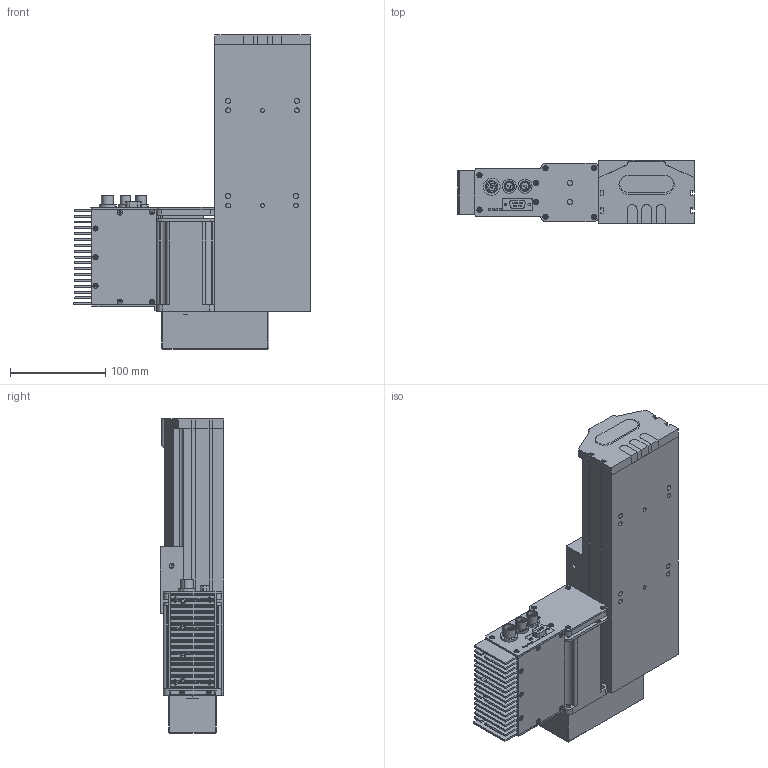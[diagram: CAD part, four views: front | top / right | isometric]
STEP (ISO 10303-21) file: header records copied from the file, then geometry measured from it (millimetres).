
FILE_DESCRIPTION (( 'STEP AP203' ), '1' );
FILE_NAME ('S10 TSN BL S100.STEP', '2012-08-31T14:11:23', ( 'Conseil Régional Haute-Normandie' ), ( 'Conseil Régional Haute-Normandie' ), 'SwSTEP 2.0', 'SolidWorks 2010', '' );
FILE_SCHEMA (( 'CONFIG_CONTROL_DESIGN' ));
Length unit declared in the file: millimetre
Products named in the file (25): Colonnette_3; S10 TSN BL S100; BU45 Carte d''axe A11_5; Moteur 60BLDC90A_3; Sub D 9cts 90_X2_00B_X0__3; Assem1_7; T_X2_00F4_X0_le contre le moteur_5; BU41 Carte Alimentation P05_3; Couvercle_3; T_X2_00F4_X0_le fond_3; Connecteur rond D10 3cts_5; Connecteur rond D12 4cts_5; Radiateur profil_X2_00E9_X0_ 100x25_3; Colonnette ronde_3; T_X2_00F4_X0_le Arri_X2_00E8_X0_re_5; T_X2_00F4_X0_le lat_X2_00E9_X0_rale_5; Vis TF 3 torkx_1_1; axe287; palette tbn; renvoi LH_Default; Vis TF 3 torkx; piece_plastique remplie_Default; embout_modifié; remplir_Default; Pièce2_Default
Assembly tree (55 placements, depth 3):
  S10 TSN BL S100
    Vis TF 3 torkx  x7
    Assem1_7
      Moteur 60BLDC90A_3
      Vis TF 3 torkx_1_1  x21
      T_X2_00F4_X0_le Arri_X2_00E8_X0_re_5
      T_X2_00F4_X0_le lat_X2_00E9_X0_rale_5  x2
      Sub D 9cts 90_X2_00B_X0__3
      T_X2_00F4_X0_le contre le moteur_5
      Colonnette ronde_3
      Colonnette_3  x2
      BU45 Carte d''axe A11_5
      Connecteur rond D10 3cts_5  x2
      Connecteur rond D12 4cts_5
      BU41 Carte Alimentation P05_3
      Couvercle_3
      T_X2_00F4_X0_le fond_3
      Radiateur profil_X2_00E9_X0_ 100x25_3
    axe287
    renvoi LH_Default
    piece_plastique remplie_Default
      remplir_Default  x3
      embout_modifié
      Pièce2_Default
    palette tbn
Bounding box: 248 x 66.75 x 329.5 mm (x, y, z)
Volume: 2203782.4 mm3; surface area: 421411 mm2
Topology: 53 solids, 53 shells, 1936 faces, 4932 edges, 3214 vertices
Faces by surface type: plane 920, cylinder 853, cone 156, bspline 4, torus 3
Entity records: 37751 total; most frequent: CARTESIAN_POINT 6382, DIRECTION 6111, ORIENTED_EDGE 5572, EDGE_CURVE 2786, AXIS2_PLACEMENT_3D 2232, VERTEX_POINT 1826, VECTOR 1647, LINE 1647
